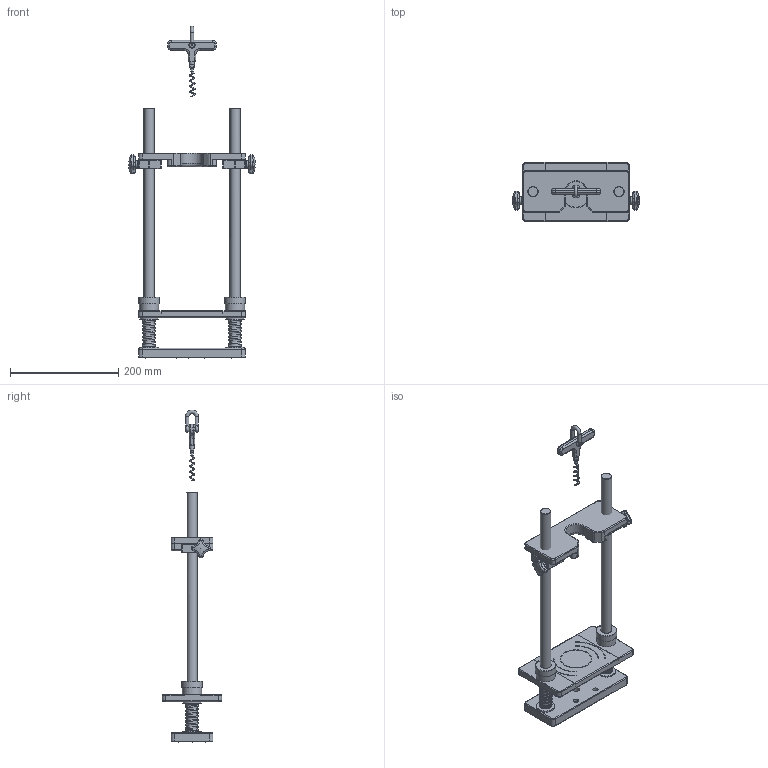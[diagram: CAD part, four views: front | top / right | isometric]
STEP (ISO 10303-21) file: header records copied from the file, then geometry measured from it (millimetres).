
FILE_DESCRIPTION(/* description */ (''),/* implementation_level */ '2;1');
FILE_NAME(/* name */ 'F:\CAD files\Itr\3D MARKETING MODELS\GRIPS\G1105\G1105.stp',/* time_stamp */ '2018-07-12T17:27:58-04:00',/* author */ ('mlampen'),/* organization */ (''),/* preprocessor_version */ 'ST-DEVELOPER v17',/* originating_system */ 'AutoCAD Mechanical',/* authorisation */ '');
FILE_SCHEMA (('AUTOMOTIVE_DESIGN { 1 0 10303 214 3 1 1 }'));
Length unit declared in the file: inch
Products named in the file (1): Product
Bounding box: 234.62 x 109.22 x 612.99 mm (x, y, z)
Volume: 1141937.9 mm3; surface area: 221235.7 mm2
Topology: 6 solids, 6 shells, 531 faces, 1280 edges, 795 vertices
Faces by surface type: cylinder 189, plane 153, torus 72, bspline 52, cone 47, sphere 18
Full cylindrical faces by diameter (mm): 4.826 x1, 5.131 x4, 5.62 x2, 6.35 x5, 6.375 x1, 6.477 x1, 7.366 x2, 9.017 x1, 9.525 x7, 9.779 x1, 11.906 x2, 12.7 x1, 13.462 x2, 13.487 x2, 14.224 x2, 19.063 x4, 19.431 x4, 19.558 x2, 33.325 x4, 35.56 x2
Entity records: 24364 total; most frequent: CARTESIAN_POINT 11825, DIRECTION 2783, ORIENTED_EDGE 2544, EDGE_CURVE 1272, AXIS2_PLACEMENT_3D 1147, VERTEX_POINT 797, CIRCLE 645, EDGE_LOOP 599
